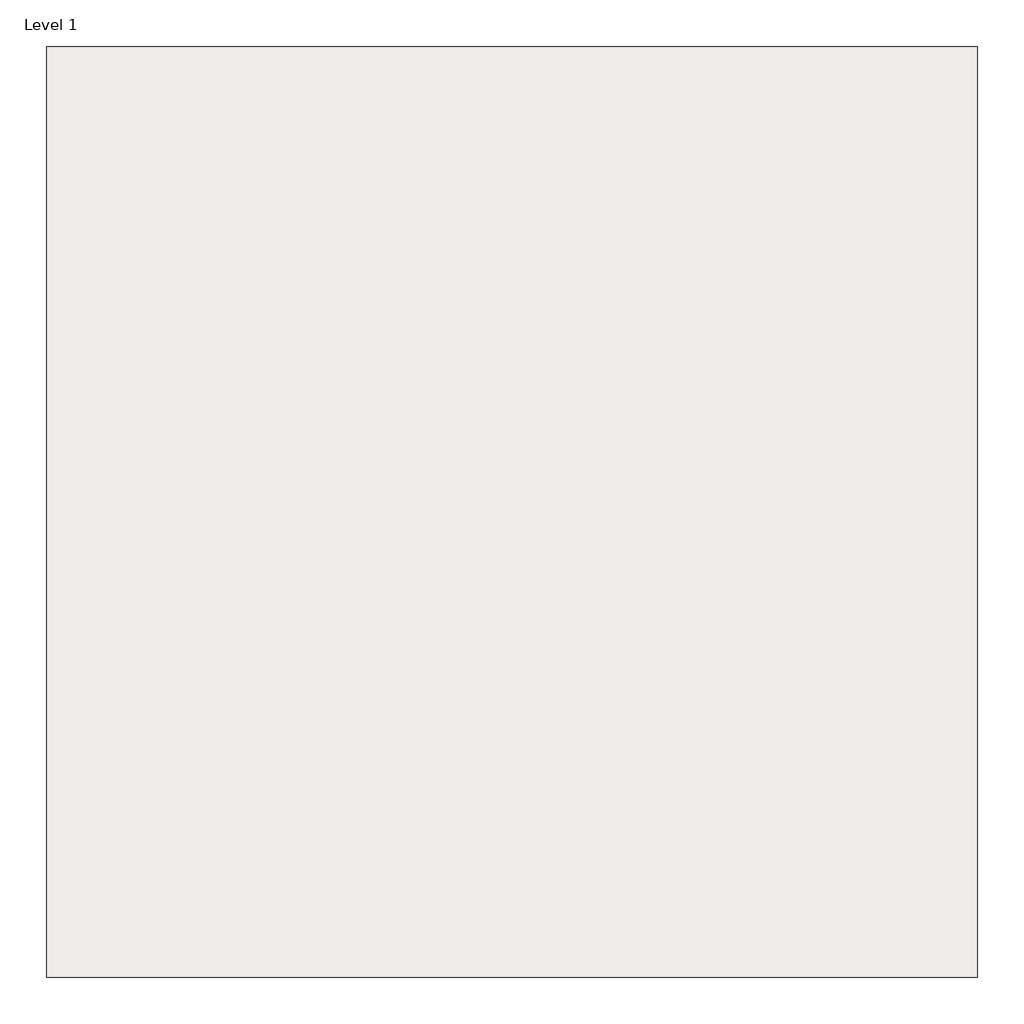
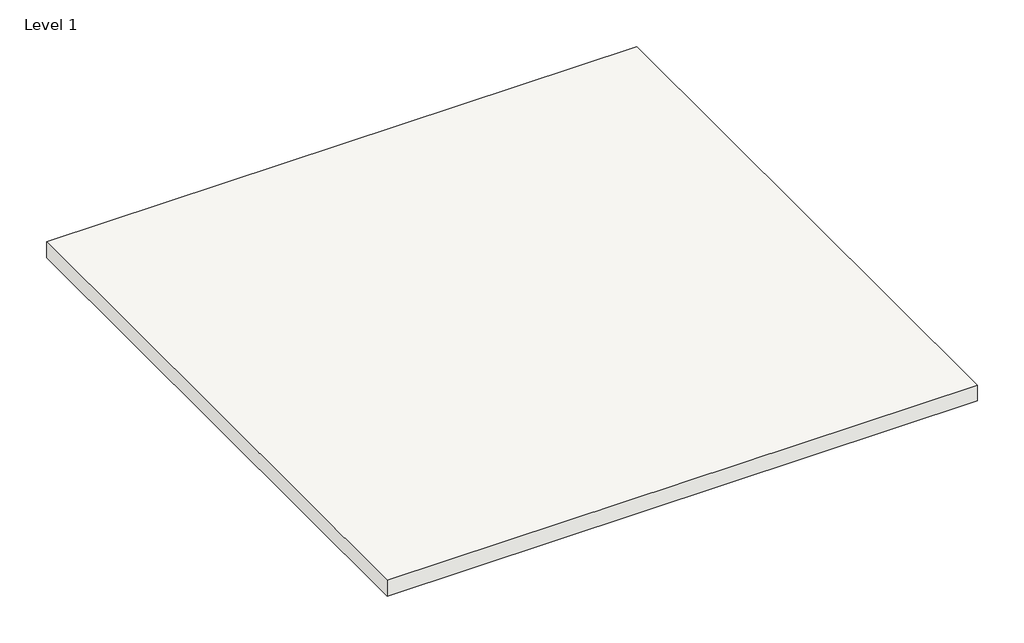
# One storey: 1 covering.
"""IFC4 building model written with IfcOpenShell, lengths in millimetres."""

from ifc_helpers import new_model, si_unit, origin, origin_with_axes, place, context, project, spatial, polyline, outline, extrude, element, save

model = new_model("IFC4")

# Units and contexts
model_context = context("Model", 3, world=origin())
ifc_project = project(units=[si_unit("LENGTHUNIT", "METRE", prefix="MILLI")], contexts=[model_context])

# Site, building, storey
site = spatial("IfcSite", under=ifc_project)
building = spatial("IfcBuilding", under=site)
storey = spatial("IfcBuildingStorey", under=building, Name="Level 1", Elevation=0.0)

# Covering
placement = place(None, origin())
element("IfcCovering", 1, ObjectType="RIGIPS - 4.10.15 - EI 30, REI 30 - 30dB", at=placement, inside=storey, context=model_context, shape_type="SweptSolid", body=[
    extrude(outline(polyline([(-1500.0, 1500.0), (1500.0, 1500.0), (1500.0, -1500.0), (-1500.0, -1500.0), (-1500.0, 1500.0)])), origin_with_axes(), (0.0, 0.0, 1.0), 85.0),
])

save(model, "model.ifc")
